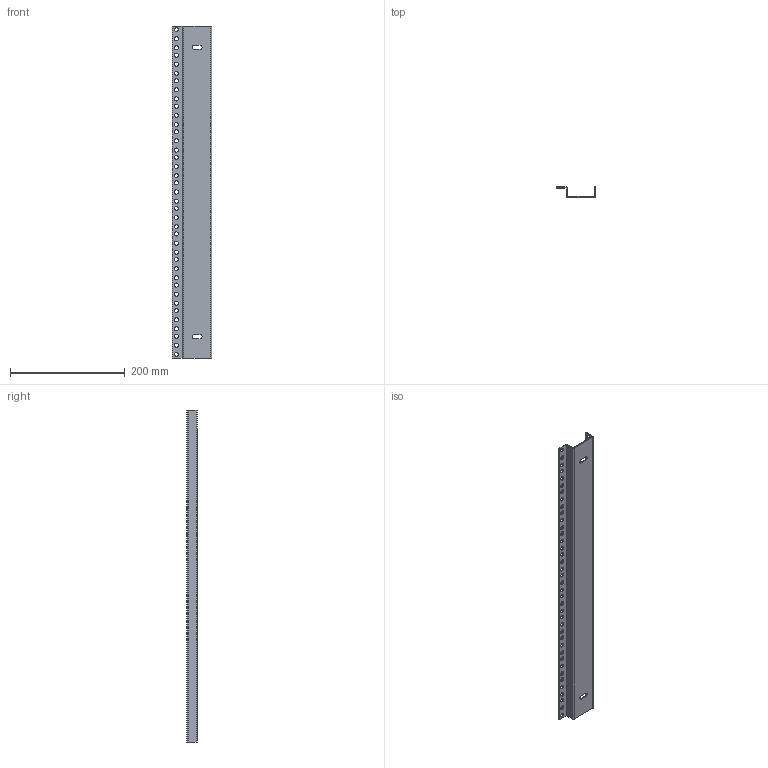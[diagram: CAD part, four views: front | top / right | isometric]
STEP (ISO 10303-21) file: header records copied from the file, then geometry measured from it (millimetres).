
FILE_DESCRIPTION( ( 'Unknown' ), '1' );
FILE_NAME( 'Q:/WEB DRAWINGS/STEP/RCHR1922.stp', 'Unknown', ( 'Unknown' ), ( 'Unknown' ), 'PSStep 16.0.42', 'Unknown', ' ' );
FILE_SCHEMA( ( 'AUTOMOTIVE_DESIGN { 1 0 10303 214 1 1 1 1 }' ) );
Length unit declared in the file: millimetre
Products named in the file (1): 1
Bounding box: 68.4 x 18.41 x 577.85 mm (x, y, z)
Volume: 78769.9 mm3; surface area: 113432.8 mm2
Topology: 1 solids, 1 shells, 104 faces, 345 edges, 243 vertices
Faces by surface type: cylinder 88, plane 16
Full cylindrical faces by diameter (mm): 7.137 x78
Entity records: 3511 total; most frequent: DIRECTION 614, CARTESIAN_POINT 537, ORIENTED_EDGE 456, EDGE_LOOP 342, AXIS2_PLACEMENT_3D 281, EDGE_CURVE 228, VERTEX_POINT 204, FACE_OUTER_BOUND 182
